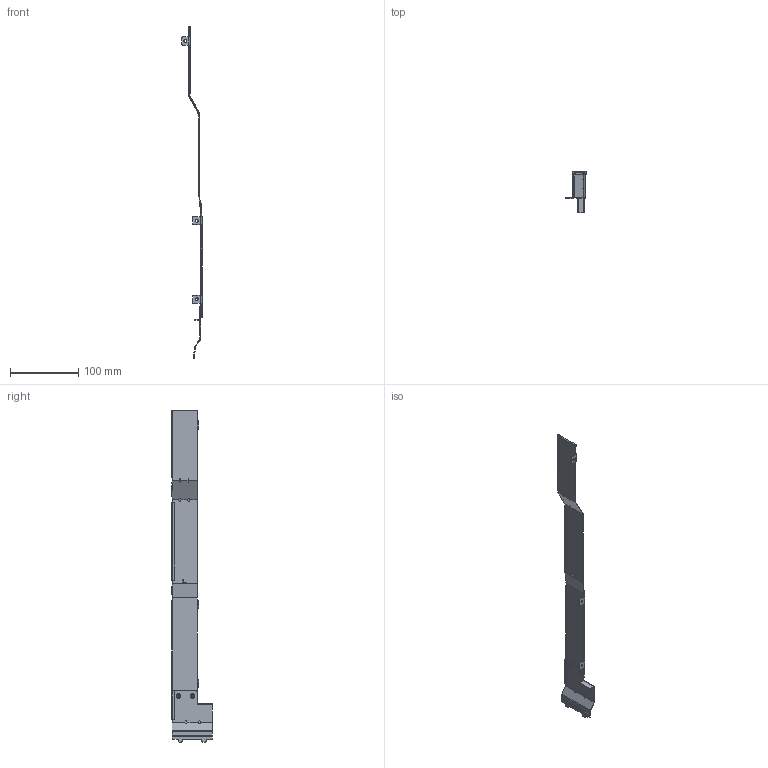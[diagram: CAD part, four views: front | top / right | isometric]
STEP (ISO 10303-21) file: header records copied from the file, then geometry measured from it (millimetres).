
FILE_DESCRIPTION((''),'2;1');
FILE_NAME('BAFFLE_ASM_400G_EC_R','2020-02-11T',('829856'),('Rior'),'CREO PARAMETRIC BY PTC INC, 2015480','CREO PARAMETRIC BY PTC INC, 2015480','');
FILE_SCHEMA(('AUTOMOTIVE_DESIGN { 1 0 10303 214 1 1 1 1 }'));
Length unit declared in the file: millimetre
Products named in the file (5): BAFFLE_PSU_1_J2_NCP-2_6; BAFFLE_PSU_2_J2_NCP-2_7; RVT_POP_SKK3030PT_13; BAFFLE_PSU_J2_NCP-2_ASM_8; BAFFLE_ASM_400G_EC_R
Assembly tree (5 placements, depth 3):
  BAFFLE_ASM_400G_EC_R
    BAFFLE_PSU_J2_NCP-2_ASM_8
      BAFFLE_PSU_1_J2_NCP-2_6
      BAFFLE_PSU_2_J2_NCP-2_7
      RVT_POP_SKK3030PT_13  x2
Bounding box: 30 x 60.1 x 487.3 mm (x, y, z)
Volume: 22849.9 mm3; surface area: 47310.9 mm2
Topology: 4 solids, 4 shells, 299 faces, 712 edges, 420 vertices
Faces by surface type: plane 167, cylinder 104, cone 24, torus 4
Entity records: 12295 total; most frequent: CARTESIAN_POINT 1949, DIRECTION 1428, ORIENTED_EDGE 1360, PRESENTATION_STYLE_ASSIGNMENT 684, STYLED_ITEM 683, CURVE_STYLE 680, EDGE_CURVE 680, AXIS2_PLACEMENT_3D 492
